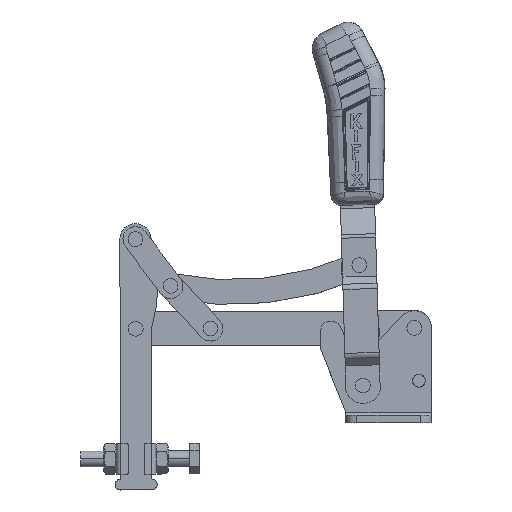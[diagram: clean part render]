
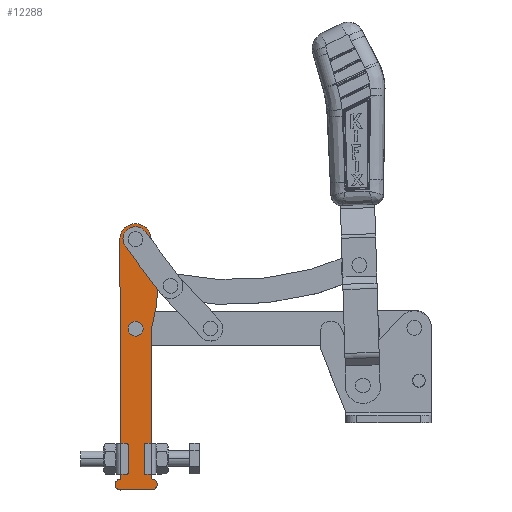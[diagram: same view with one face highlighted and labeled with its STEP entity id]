
A CAD part, top view. The second image highlights one B-rep face of the part: STEP entity #12288.
In plain terms, the highlighted planar face has unit normal (0, 0, 1) as drawn and (0, 1, 0) by its records, which use the part's own axes.
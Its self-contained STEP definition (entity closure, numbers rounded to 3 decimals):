
#74 = CARTESIAN_POINT ( 'NONE',  ( -10., 0., 85.5 ) ) ;
#140 = CIRCLE ( 'NONE', #20078, 3.5 ) ;
#204 = CARTESIAN_POINT ( 'NONE',  ( 10., 0., -17.737 ) ) ;
#807 = EDGE_CURVE ( 'NONE', #5114, #6143, #12369, .T. ) ;
#818 = AXIS2_PLACEMENT_3D ( 'NONE', #22718, #10493, #24799 ) ;
#1019 = EDGE_LOOP ( 'NONE', ( #15363, #20085, #20502, #8791, #8998, #7591, #22101 ) ) ;
#1207 = VERTEX_POINT ( 'NONE', #26430 ) ;
#1722 = VERTEX_POINT ( 'NONE', #74 ) ;
#1870 = EDGE_CURVE ( 'NONE', #16475, #6514, #17452, .T. ) ;
#1917 = DIRECTION ( 'NONE',  ( 0., 1., 0. ) ) ;
#2050 = CARTESIAN_POINT ( 'NONE',  ( 0., 0., -71.5 ) ) ;
#2086 = DIRECTION ( 'NONE',  ( 0., 0., 1. ) ) ;
#2172 = DIRECTION ( 'NONE',  ( 0., 1., 0. ) ) ;
#2593 = VECTOR ( 'NONE', #10663, 1000. ) ;
#2651 = FACE_OUTER_BOUND ( 'NONE', #1019, .T. ) ;
#2986 = VECTOR ( 'NONE', #13380, 1000. ) ;
#3367 = CARTESIAN_POINT ( 'NONE',  ( -10., 0., -75.5 ) ) ;
#3379 = CARTESIAN_POINT ( 'NONE',  ( 0., 0., -79.5 ) ) ;
#3625 = CARTESIAN_POINT ( 'NONE',  ( 0., 0., 0. ) ) ;
#3879 = CARTESIAN_POINT ( 'NONE',  ( 10., 0., -85.5 ) ) ;
#4098 = CARTESIAN_POINT ( 'NONE',  ( 0., 0., -75.5 ) ) ;
#4136 = CARTESIAN_POINT ( 'NONE',  ( -10., 0., 82. ) ) ;
#4203 = CARTESIAN_POINT ( 'NONE',  ( 10., 0., 82. ) ) ;
#4711 = AXIS2_PLACEMENT_3D ( 'NONE', #4098, #18383, #6161 ) ;
#4746 = EDGE_CURVE ( 'NONE', #1207, #14016, #14484, .T. ) ;
#5114 = VERTEX_POINT ( 'NONE', #3379 ) ;
#5438 = VECTOR ( 'NONE', #18167, 1000. ) ;
#5752 = ORIENTED_EDGE ( 'NONE', *, *, #15214, .F. ) ;
#6143 = VERTEX_POINT ( 'NONE', #2050 ) ;
#6161 = DIRECTION ( 'NONE',  ( 0., 0., -1. ) ) ;
#6196 = DIRECTION ( 'NONE',  ( 0., 0., 1. ) ) ;
#6248 = EDGE_CURVE ( 'NONE', #6514, #16475, #22821, .T. ) ;
#6272 = DIRECTION ( 'NONE',  ( 0., 0., 1. ) ) ;
#6514 = VERTEX_POINT ( 'NONE', #12000 ) ;
#6647 = VERTEX_POINT ( 'NONE', #204 ) ;
#7381 = LINE ( 'NONE', #24967, #2593 ) ;
#7591 = ORIENTED_EDGE ( 'NONE', *, *, #10294, .T. ) ;
#7941 = DIRECTION ( 'NONE',  ( 0., 1., 0. ) ) ;
#7958 = VERTEX_POINT ( 'NONE', #23696 ) ;
#8791 = ORIENTED_EDGE ( 'NONE', *, *, #24719, .T. ) ;
#8998 = ORIENTED_EDGE ( 'NONE', *, *, #4746, .T. ) ;
#9660 = DIRECTION ( 'NONE',  ( 0., -1., 0. ) ) ;
#9788 = CARTESIAN_POINT ( 'NONE',  ( -10., 0., 78.5 ) ) ;
#10294 = EDGE_CURVE ( 'NONE', #14016, #11824, #7381, .T. ) ;
#10327 = AXIS2_PLACEMENT_3D ( 'NONE', #14143, #1917, #16194 ) ;
#10493 = DIRECTION ( 'NONE',  ( 0., 1., 0. ) ) ;
#10663 = DIRECTION ( 'NONE',  ( 0., 0., 1. ) ) ;
#10878 = AXIS2_PLACEMENT_3D ( 'NONE', #14392, #2172, #16449 ) ;
#11483 = LINE ( 'NONE', #3879, #5438 ) ;
#11495 = EDGE_LOOP ( 'NONE', ( #5752, #20392 ) ) ;
#11815 = EDGE_CURVE ( 'NONE', #1722, #23891, #13199, .T. ) ;
#11824 = VERTEX_POINT ( 'NONE', #9788 ) ;
#12000 = CARTESIAN_POINT ( 'NONE',  ( 0., 0., -22. ) ) ;
#12076 = CARTESIAN_POINT ( 'NONE',  ( 0., 0., -75.5 ) ) ;
#12288 = ADVANCED_FACE ( 'NONE', ( #2651, #23068, #17654 ), #23965, .F. ) ;
#12369 = CIRCLE ( 'NONE', #16192, 4. ) ;
#12702 = AXIS2_PLACEMENT_3D ( 'NONE', #3625, #9660, #17901 ) ;
#13072 = EDGE_CURVE ( 'NONE', #23891, #7958, #18005, .T. ) ;
#13199 = LINE ( 'NONE', #17561, #2986 ) ;
#13380 = DIRECTION ( 'NONE',  ( 1., 0., 0. ) ) ;
#14016 = VERTEX_POINT ( 'NONE', #3367 ) ;
#14143 = CARTESIAN_POINT ( 'NONE',  ( 0., 0., -75.5 ) ) ;
#14392 = CARTESIAN_POINT ( 'NONE',  ( -85.5, 0., -47.398 ) ) ;
#14484 = CIRCLE ( 'NONE', #4711, 10. ) ;
#14961 = ORIENTED_EDGE ( 'NONE', *, *, #6248, .F. ) ;
#15214 = EDGE_CURVE ( 'NONE', #6143, #5114, #19851, .T. ) ;
#15363 = ORIENTED_EDGE ( 'NONE', *, *, #11815, .T. ) ;
#16192 = AXIS2_PLACEMENT_3D ( 'NONE', #12076, #17527, #21967 ) ;
#16194 = DIRECTION ( 'NONE',  ( 0., 0., 1. ) ) ;
#16270 = CARTESIAN_POINT ( 'NONE',  ( 0., 0., -14. ) ) ;
#16449 = DIRECTION ( 'NONE',  ( 0., 0., -1. ) ) ;
#16475 = VERTEX_POINT ( 'NONE', #16270 ) ;
#16886 = AXIS2_PLACEMENT_3D ( 'NONE', #18142, #7941, #2086 ) ;
#17155 = AXIS2_PLACEMENT_3D ( 'NONE', #4203, #18490, #6272 ) ;
#17452 = CIRCLE ( 'NONE', #16886, 4. ) ;
#17527 = DIRECTION ( 'NONE',  ( 0., 1., 0. ) ) ;
#17561 = CARTESIAN_POINT ( 'NONE',  ( 10., 0., 85.5 ) ) ;
#17654 = FACE_BOUND ( 'NONE', #11495, .T. ) ;
#17901 = DIRECTION ( 'NONE',  ( 0., 0., -1. ) ) ;
#18005 = CIRCLE ( 'NONE', #17155, 3.5 ) ;
#18093 = EDGE_CURVE ( 'NONE', #11824, #1722, #140, .T. ) ;
#18142 = CARTESIAN_POINT ( 'NONE',  ( 0., 0., -18. ) ) ;
#18167 = DIRECTION ( 'NONE',  ( 0., 0., -1. ) ) ;
#18383 = DIRECTION ( 'NONE',  ( 0., 1., 0. ) ) ;
#18419 = DIRECTION ( 'NONE',  ( 0., 1., 0. ) ) ;
#18490 = DIRECTION ( 'NONE',  ( 0., 1., 0. ) ) ;
#19533 = EDGE_LOOP ( 'NONE', ( #21008, #14961 ) ) ;
#19851 = CIRCLE ( 'NONE', #10327, 4. ) ;
#20078 = AXIS2_PLACEMENT_3D ( 'NONE', #4136, #18419, #6196 ) ;
#20085 = ORIENTED_EDGE ( 'NONE', *, *, #13072, .T. ) ;
#20392 = ORIENTED_EDGE ( 'NONE', *, *, #807, .F. ) ;
#20502 = ORIENTED_EDGE ( 'NONE', *, *, #22511, .T. ) ;
#21008 = ORIENTED_EDGE ( 'NONE', *, *, #1870, .F. ) ;
#21967 = DIRECTION ( 'NONE',  ( 0., 0., 1. ) ) ;
#22101 = ORIENTED_EDGE ( 'NONE', *, *, #18093, .T. ) ;
#22251 = CIRCLE ( 'NONE', #10878, 100. ) ;
#22511 = EDGE_CURVE ( 'NONE', #7958, #6647, #11483, .T. ) ;
#22636 = CARTESIAN_POINT ( 'NONE',  ( 10., 0., 85.5 ) ) ;
#22718 = CARTESIAN_POINT ( 'NONE',  ( 0., 0., -18. ) ) ;
#22821 = CIRCLE ( 'NONE', #818, 4. ) ;
#23068 = FACE_BOUND ( 'NONE', #19533, .T. ) ;
#23696 = CARTESIAN_POINT ( 'NONE',  ( 10., 0., 78.5 ) ) ;
#23891 = VERTEX_POINT ( 'NONE', #22636 ) ;
#23965 = PLANE ( 'NONE',  #12702 ) ;
#24719 = EDGE_CURVE ( 'NONE', #6647, #1207, #22251, .T. ) ;
#24799 = DIRECTION ( 'NONE',  ( 0., 0., 1. ) ) ;
#24967 = CARTESIAN_POINT ( 'NONE',  ( -10., 0., 85.5 ) ) ;
#26430 = CARTESIAN_POINT ( 'NONE',  ( 9.5, 0., -78.622 ) ) ;
